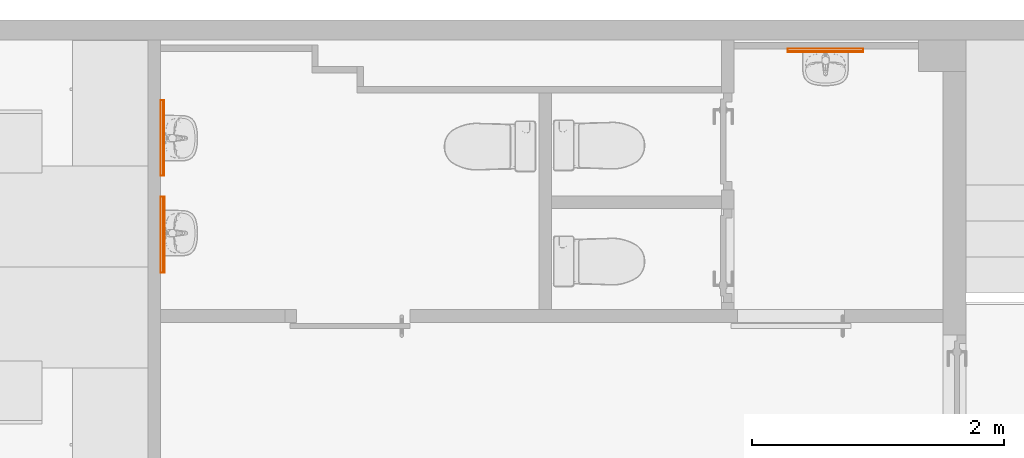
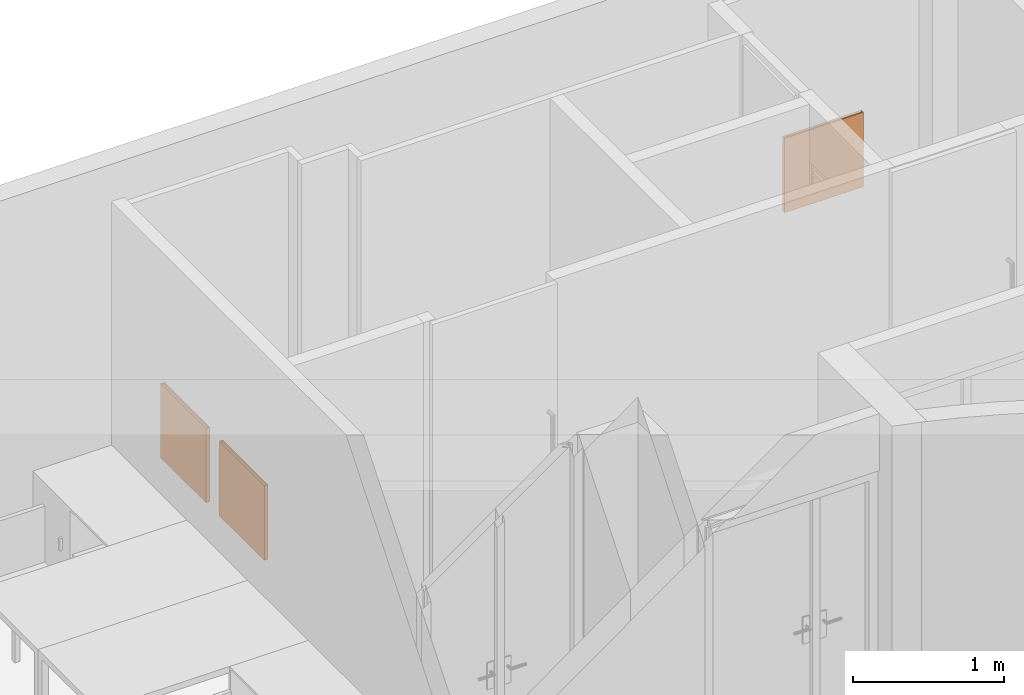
"""IFC4 building model written with IfcOpenShell, lengths in metres."""

import ifcopenshell
import ifcopenshell.guid

model = None  # the IFC model being written
_history = None  # IfcOwnerHistory: only IFC2X3 demands one
_inside = {}  # id of a spatial element -> (the spatial element, [elements in it])
_under = {}  # id of a project, library or spatial element -> (it, [spatial elements below it])
_declared = {}  # id of a project -> (the project, [libraries it declares])
_typed = {}  # id of a type object -> (the type object, [elements of that type])
_made_of = {}  # id of a material, layer set ... -> (it, [elements and type objects made of it])


def new_model(schema):
    """Start an empty IFC model of exactly this schema.

    Asked for "IFC4X3", IfcOpenShell would pick the latest addendum, in which some entities
    have other attributes; the version numbers below select the first issue.
    IFC2X3 requires an IfcOwnerHistory on every rooted entity: one is made here for all.
    """
    global model, _history
    if schema == "IFC4X3":
        model = ifcopenshell.file(schema_version=(4, 3, 0, 0))
    else:
        model = ifcopenshell.file(schema=schema)
    _inside.clear()
    _under.clear()
    _declared.clear()
    _typed.clear()
    _made_of.clear()
    _history = None
    if model.schema == "IFC2X3":
        org = make("IfcOrganization", Name="unknown")
        user = make(
            "IfcPersonAndOrganization",
            ThePerson=make("IfcPerson", FamilyName="unknown"),
            TheOrganization=org,
        )
        app = make(
            "IfcApplication",
            ApplicationDeveloper=org,
            Version="unknown",
            ApplicationFullName="unknown",
            ApplicationIdentifier="unknown",
        )
        _history = make(
            "IfcOwnerHistory",
            OwningUser=user,
            OwningApplication=app,
            ChangeAction="ADDED",
            CreationDate=0,
        )
    return model


def make(cls, **values):
    """One entity of the class cls with the attributes given. An attribute that is None is left unset."""
    return model.create_entity(
        cls, **{name: value for name, value in values.items() if value is not None}
    )


def entity(cls, *values):
    """Any entity or typed value of the class cls, its attributes in the order of the schema. None: left unset."""
    e = model.create_entity(cls)
    for i, value in enumerate(values):
        if value is not None:
            e[i] = value
    return e


def rooted(cls, **values):
    """An entity with a GlobalId (a new one), such as an element, a storey or a relation."""
    return make(cls, GlobalId=ifcopenshell.guid.new(), OwnerHistory=_history, **values)


def si_unit(unit_type, name, prefix=None):
    """IfcSIUnit, for example si_unit("LENGTHUNIT", "METRE", prefix="MILLI")."""
    return make("IfcSIUnit", UnitType=unit_type, Prefix=prefix, Name=name)


def converted_unit(unit_type, name, factor, base, dimensions=None, offset=None):
    """IfcConversionBasedUnit, such as the inch: factor (a typed value) times the base unit."""
    return make(
        "IfcConversionBasedUnit"
        if offset is None
        else "IfcConversionBasedUnitWithOffset",
        ConversionOffset=offset,
        Dimensions=None
        if dimensions is None
        else entity("IfcDimensionalExponents", *dimensions),
        UnitType=unit_type,
        Name=name,
        ConversionFactor=make(
            "IfcMeasureWithUnit", ValueComponent=factor, UnitComponent=base
        ),
    )


def derived_unit(unit_type, elements):
    """IfcDerivedUnit: a product of units, each with its exponent."""
    return make(
        "IfcDerivedUnit",
        Elements=[
            make("IfcDerivedUnitElement", Unit=unit, Exponent=power)
            for unit, power in elements
        ],
        UnitType=unit_type,
    )


def assignment(units):
    """IfcUnitAssignment: the units of a project."""
    return None if units is None else make("IfcUnitAssignment", Units=units)


def point(xyz):
    """IfcCartesianPoint."""
    return None if xyz is None else make("IfcCartesianPoint", Coordinates=xyz)


def direction(xyz):
    """IfcDirection."""
    return None if xyz is None else make("IfcDirection", DirectionRatios=xyz)


def frame(location, z_axis=None, x_axis=None):
    """IfcAxis2Placement3D, a coordinate frame: its origin and axes. An axis left out is left unset."""
    return make(
        "IfcAxis2Placement3D",
        Location=point(location),
        Axis=direction(z_axis),
        RefDirection=direction(x_axis),
    )


def origin():
    """The frame at (0, 0, 0) with its axes left unset."""
    return frame((0.0, 0.0, 0.0))


def origin_with_axes():
    """The frame at (0, 0, 0) with the z axis (0, 0, 1) and the x axis (1, 0, 0) written out."""
    return frame((0.0, 0.0, 0.0), z_axis=(0.0, 0.0, 1.0), x_axis=(1.0, 0.0, 0.0))


def place(relative_to, where):
    """IfcLocalPlacement: puts the frame where relative to a parent placement (None: the world)."""
    return make(
        "IfcLocalPlacement", PlacementRelTo=relative_to, RelativePlacement=where
    )


def context(
    kind, dimensions, precision=None, world=None, true_north=None, identifier=None
):
    """IfcGeometricRepresentationContext, for example the 3D "Model" context."""
    return make(
        "IfcGeometricRepresentationContext",
        ContextIdentifier=identifier,
        ContextType=kind,
        CoordinateSpaceDimension=dimensions,
        Precision=precision,
        WorldCoordinateSystem=world,
        TrueNorth=true_north,
    )


def subcontext(parent, identifier, kind, view, scale=None):
    """IfcGeometricRepresentationSubContext, for example "Body" below "Model"."""
    return make(
        "IfcGeometricRepresentationSubContext",
        ContextIdentifier=identifier,
        ContextType=kind,
        ParentContext=parent,
        TargetScale=scale,
        TargetView=view,
    )


def project(units=None, contexts=None):
    """IfcProject with its units and contexts."""
    return rooted(
        "IfcProject",
        Name="project",
        RepresentationContexts=contexts,
        UnitsInContext=assignment(units),
    )


def spatial(cls, under=None, at=None, **own):
    """A site, building, storey or space (cls), placed at a placement, below another one or the project."""
    s = rooted(cls, ObjectPlacement=at, **own)
    if under is not None:
        _under.setdefault(under.id(), (under, []))[1].append(s)
    return s


def faces_of(points, faces, orient=None, outer=None):
    """IfcFace entities. A face is a list of loops; a loop is a list of indices into points, from 0.

    orient and outer hold one flag for each loop. By default every Orientation is true, the
    first loop of a face is its IfcFaceOuterBound and the others are IfcFaceBound.
    """
    made = []
    for i, loops in enumerate(faces):
        bounds = []
        for j, loop in enumerate(loops):
            is_outer = j == 0 if outer is None else outer[i][j]
            bounds.append(
                make(
                    "IfcFaceOuterBound" if is_outer else "IfcFaceBound",
                    Bound=make("IfcPolyLoop", Polygon=[points[k] for k in loop]),
                    Orientation=True if orient is None else orient[i][j],
                )
            )
        made.append(make("IfcFace", Bounds=bounds))
    return made


def open_shell(faces, orient=None, outer=None):
    """The faces of one IfcOpenShell. surface_model builds it on its shared points."""
    return ("IfcOpenShell", faces, orient, outer)


def surface_model(cls, points, shells):
    """IfcFaceBasedSurfaceModel or IfcShellBasedSurfaceModel (cls): surfaces that need not close."""
    shared = [point(p) for p in points]
    made = [make(c, CfsFaces=faces_of(shared, fs, o, b)) for c, fs, o, b in shells]
    if cls == "IfcFaceBasedSurfaceModel":
        return make(cls, FbsmFaces=made)
    return make(cls, SbsmBoundary=made)


def shape(context_of_items, identifier, shape_type, items):
    """IfcShapeRepresentation: the items that make up one representation, for example the "Body"."""
    return make(
        "IfcShapeRepresentation",
        ContextOfItems=context_of_items,
        RepresentationIdentifier=identifier,
        RepresentationType=shape_type,
        Items=items,
    )


def source(mapping_origin, context_of_items, identifier, shape_type, items):
    """IfcRepresentationMap: a shape defined once, which mapped items show again and again."""
    return make(
        "IfcRepresentationMap",
        MappingOrigin=mapping_origin,
        MappedRepresentation=shape(context_of_items, identifier, shape_type, items),
    )


def transform(
    local_origin,
    x_axis=None,
    y_axis=None,
    z_axis=None,
    scale=None,
    scale2=None,
    scale3=None,
    uniform=True,
):
    """IfcCartesianTransformationOperator3D, or its non-uniform kind. x_axis, y_axis, z_axis: its Axis1, 2, 3."""
    if uniform:
        return make(
            "IfcCartesianTransformationOperator3D",
            Axis1=direction(x_axis),
            Axis2=direction(y_axis),
            LocalOrigin=point(local_origin),
            Scale=scale,
            Axis3=direction(z_axis),
        )
    return make(
        "IfcCartesianTransformationOperator3DnonUniform",
        Axis1=direction(x_axis),
        Axis2=direction(y_axis),
        LocalOrigin=point(local_origin),
        Scale=scale,
        Axis3=direction(z_axis),
        Scale2=scale2,
        Scale3=scale3,
    )


def mapped(mapping_source, mapping_target):
    """IfcMappedItem: shows the shape of a source again, moved by a transform."""
    return make(
        "IfcMappedItem", MappingSource=mapping_source, MappingTarget=mapping_target
    )


def made_of(thing, what):
    """Note that an element or type object is made of a material, layer set ...; save() writes the relation."""
    if what is not None:
        _made_of.setdefault(what.id(), (what, []))[1].append(thing)
    return thing


def element(
    cls,
    number,
    at=None,
    inside=None,
    cuts=None,
    type_object=None,
    material=None,
    context=None,
    identifier="Body",
    shape_type=None,
    held_by="IfcProductDefinitionShape",
    body=None,
    shapes=None,
    **own,
):
    """One element of the class cls, such as IfcWall. Its Tag is "e" and its number.

    at: its placement. inside: the storey or other place that contains it. cuts: it is an
    opening in that element (IfcRelVoidsElement). A single representation is given by context,
    identifier, shape_type and body (its items); several are given by shapes. held_by: the class
    of the entity that holds the representations. save() writes the other relations.
    """
    e = rooted(cls, Tag="e%d" % number, ObjectPlacement=at, **own)
    if body is not None:
        shapes = [shape(context, identifier, shape_type, body)]
    if shapes is not None:
        e.Representation = make(held_by, Representations=shapes)
    if inside is not None:
        _inside.setdefault(inside.id(), (inside, []))[1].append(e)
    if cuts is not None:
        rooted(
            "IfcRelVoidsElement", RelatingBuildingElement=cuts, RelatedOpeningElement=e
        )
    if type_object is not None:
        _typed.setdefault(type_object.id(), (type_object, []))[1].append(e)
    return made_of(e, material)


def aggregate(whole, parts):
    """IfcRelAggregates: a whole, such as a stair, and the parts it consists of."""
    return rooted("IfcRelAggregates", RelatingObject=whole, RelatedObjects=parts)


def save(model, path):
    """Write the relations noted so far, then the file.

    IfcRelAggregates (storeys below a building ...), IfcRelContainedInSpatialStructure (elements
    in a storey), IfcRelDefinesByType, IfcRelAssociatesMaterial and IfcRelDeclares: one each for
    every whole, place, type object, material and project.
    """
    for whole, parts in _under.values():
        aggregate(whole, parts)
    for where, things in _inside.values():
        rooted(
            "IfcRelContainedInSpatialStructure",
            RelatedElements=things,
            RelatingStructure=where,
        )
    for kind, things in _typed.values():
        rooted("IfcRelDefinesByType", RelatedObjects=things, RelatingType=kind)
    for what, things in _made_of.values():
        rooted("IfcRelAssociatesMaterial", RelatedObjects=things, RelatingMaterial=what)
    for by, libraries in _declared.values():
        rooted("IfcRelDeclares", RelatingContext=by, RelatedDefinitions=libraries)
    model.write(path)


model = new_model("IFC4")

# Units and contexts
model_context = context("Model", 3, precision=1e-05, world=origin())
body_context = subcontext(model_context, "Body", "Model", "MODEL_VIEW")
ifc_project = project(units=[si_unit("LENGTHUNIT", "METRE"), si_unit("AREAUNIT", "SQUARE_METRE"), si_unit("VOLUMEUNIT", "CUBIC_METRE"), si_unit("MASSUNIT", "GRAM", prefix="KILO"), converted_unit("PLANEANGLEUNIT", "DEGREE", entity("IfcPlaneAngleMeasure", 0.0174532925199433), si_unit("PLANEANGLEUNIT", "RADIAN"), dimensions=[0, 0, 0, 0, 0, 0, 0]), derived_unit("THERMALTRANSMITTANCEUNIT", [(si_unit("POWERUNIT", "WATT"), 1), (si_unit("THERMODYNAMICTEMPERATUREUNIT", "KELVIN"), -1), (si_unit("LENGTHUNIT", "METRE"), -2)]), derived_unit("VOLUMETRICFLOWRATEUNIT", [(si_unit("LENGTHUNIT", "METRE"), 3), (converted_unit("TIMEUNIT", "hour", entity("IfcTimeMeasure", 3600.0), si_unit("TIMEUNIT", "SECOND"), dimensions=[0, 0, 1, 0, 0, 0, 0]), -1), (si_unit("LENGTHUNIT", "METRE"), -1)])], contexts=[model_context])

# Building, storeys
building_placement = place(None, origin())
building = spatial("IfcBuilding", under=ifc_project, at=building_placement, Name="HABITATGE PLURIFAMILIAR", CompositionType="ELEMENT")
storey_1_placement = place(building_placement, frame((0.0, 0.0, 12.27)))
storey_1 = spatial("IfcBuildingStorey", under=building, at=storey_1_placement, Name="PLANTA TERCERA", CompositionType="ELEMENT", Elevation=12.27)
storey_2_placement = place(storey_1_placement, frame((0.0, 0.0, 9.26)))
storey_2 = spatial("IfcBuildingStorey", under=storey_1, at=storey_2_placement, Name="NOU", CompositionType="PARTIAL")

# Proxies
shared_shape = source(origin_with_axes(), body_context, "Body", "SurfaceModel", [
    surface_model("IfcShellBasedSurfaceModel", [(0.6, 0.01, 0.6), (0.6, 0.01, 0.0), (0.0, 0.01, 0.0), (0.0, 0.01, 0.6), (0.0, 0.03, 0.0), (0.0, 0.03, 0.6), (0.6, 0.03, 0.0), (0.6, 0.03, 0.6)], [open_shell([[[0, 1, 2, 3]], [[3, 2, 4, 5]], [[5, 4, 6, 7]], [[7, 6, 1, 0]]], orient=[[False], [False], [False], [False]])]),
    surface_model("IfcShellBasedSurfaceModel", [(0.0, 0.0, 0.0), (0.6, 0.0, 0.0), (0.6, 0.01, 0.0), (0.0, 0.01, 0.0), (0.0, 0.0, 0.6), (0.6, 0.0, 0.6), (0.6, 0.01, 0.6), (0.0, 0.01, 0.6)], [open_shell([[[0, 1, 2, 3]], [[0, 4, 5, 1]], [[1, 5, 6, 2]], [[2, 6, 7, 3]], [[3, 7, 4, 0]]], orient=[[False], [False], [False], [False], [False]])]),
])
proxy_placement = place(storey_2_placement, frame((409.414317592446, 27.9712997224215, -8.46)))
element("IfcBuildingElementProxy", 1, at=proxy_placement, inside=storey_2, Name="Mirall P3", context=body_context, shape_type="MappedRepresentation", body=[
    mapped(shared_shape, transform((0.0, 0.0, 0.0), x_axis=(1.0, 0.0, 0.0), y_axis=(0.0, 1.0, 0.0), z_axis=(0.0, 0.0, 1.0), scale=1.0)),
])
for number, where, z_axis, x_axis, name in (
    (2, (404.466984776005, 26.9905155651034, -8.46), (0.0, 0.0, 1.0), (1.22464679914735e-16, 1.0, 0.0), "Mirall P3"),
    (3, (404.468308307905, 26.2238560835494, -8.46), (0.0, 0.0, 1.0), (1.22464679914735e-16, 1.0, 0.0), "Mirall P3"),
):
    element("IfcBuildingElementProxy", number, at=place(storey_2_placement, frame(where, z_axis=z_axis, x_axis=x_axis)), inside=storey_2, Name=name, context=body_context, shape_type="MappedRepresentation", body=[
        mapped(shared_shape, transform((0.0, 0.0, 0.0), x_axis=(1.0, 0.0, 0.0), y_axis=(0.0, 1.0, 0.0), z_axis=(0.0, 0.0, 1.0), scale=1.0)),
    ])

save(model, "model.ifc")
